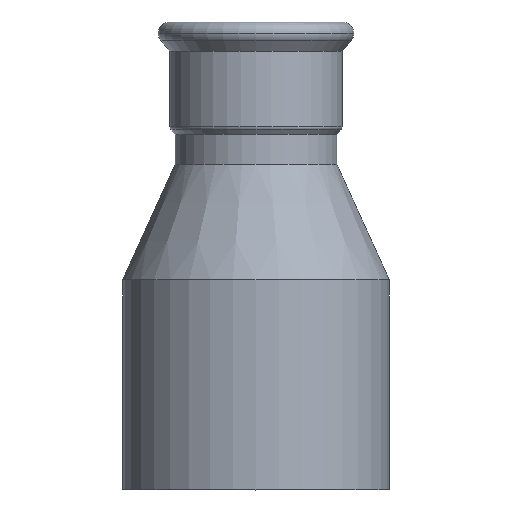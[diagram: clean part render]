
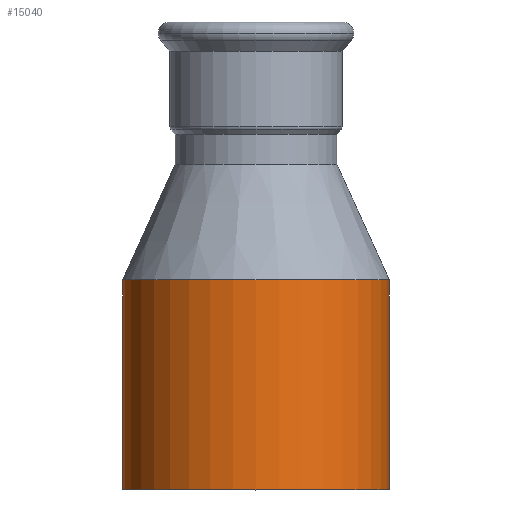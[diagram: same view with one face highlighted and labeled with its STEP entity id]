
A CAD part, top view. The second image highlights one B-rep face of the part: STEP entity #15040.
In plain terms, the highlighted cylindrical face has radius 44.45 mm (diameter 88.9 mm), a partial arc.
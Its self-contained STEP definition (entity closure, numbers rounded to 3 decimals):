
#14170=CARTESIAN_POINT('',(-14.106,145.195,0.));
#14180=VERTEX_POINT('',#14170);
#14270=CARTESIAN_POINT('',(74.794,145.195,
0.));
#14280=VERTEX_POINT('',#14270);
#14310=CARTESIAN_POINT('',(30.344,145.195,0.));
#14320=DIRECTION('',(0.,-1.,0.));
#14330=DIRECTION('',(-1.,0.,0.));
#14340=AXIS2_PLACEMENT_3D('',#14310,#14320,#14330);
#14350=CIRCLE('',#14340,44.45);
#14360=EDGE_CURVE('',#14280,#14180,#14350,.T.);
#14730=CARTESIAN_POINT('',(30.344,75.195,0.));
#14740=DIRECTION('',(0.,-1.,0.));
#14750=DIRECTION('',(1.,0.,0.));
#14760=AXIS2_PLACEMENT_3D('',#14730,#14740,#14750);
#14770=CYLINDRICAL_SURFACE('',#14760,44.45);
#14780=CARTESIAN_POINT('',(74.794,75.195,0.));
#14790=DIRECTION('',(0.,-1.,0.));
#14800=VECTOR('',#14790,1.);
#14810=LINE('',#14780,#14800);
#14820=CARTESIAN_POINT('',(74.794,75.195,0.));
#14830=VERTEX_POINT('',#14820);
#14840=EDGE_CURVE('',#14280,#14830,#14810,.T.);
#14850=ORIENTED_EDGE('',*,*,#14840,.F.);
#14860=CARTESIAN_POINT('',(30.344,75.195,0.));
#14870=DIRECTION('',(0.,-1.,0.));
#14880=DIRECTION('',(1.,0.,0.));
#14890=AXIS2_PLACEMENT_3D('',#14860,#14870,#14880);
#14900=CIRCLE('',#14890,44.45);
#14910=CARTESIAN_POINT('',(-14.106,75.195,
0.));
#14920=VERTEX_POINT('',#14910);
#14930=EDGE_CURVE('',#14830,#14920,#14900,.T.);
#14940=ORIENTED_EDGE('',*,*,#14930,.F.);
#14950=CARTESIAN_POINT('',(-14.106,75.195,
0.));
#14960=DIRECTION('',(0.,-1.,0.));
#14970=VECTOR('',#14960,1.);
#14980=LINE('',#14950,#14970);
#14990=EDGE_CURVE('',#14180,#14920,#14980,.T.);
#15000=ORIENTED_EDGE('',*,*,#14990,.T.);
#15010=ORIENTED_EDGE('',*,*,#14360,.T.);
#15020=EDGE_LOOP('',(#15010,#15000,#14940,#14850));
#15030=FACE_OUTER_BOUND('',#15020,.T.);
#15040=ADVANCED_FACE('',(#15030),#14770,.T.);
